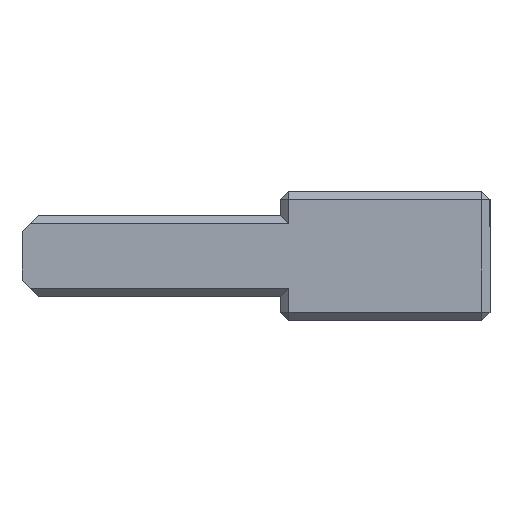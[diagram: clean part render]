
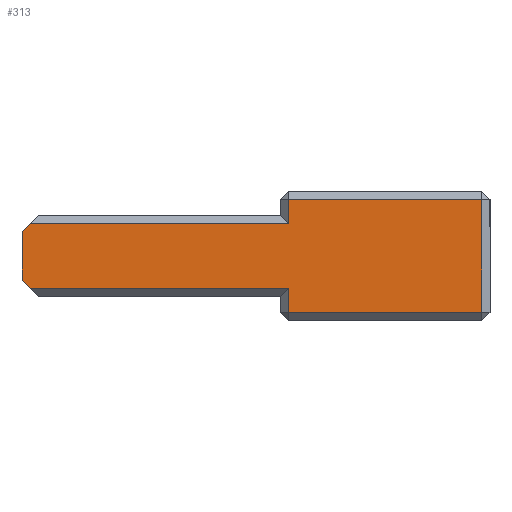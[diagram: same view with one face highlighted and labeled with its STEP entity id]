
A CAD part, top view. The second image highlights one B-rep face of the part: STEP entity #313.
In plain terms, the highlighted planar face has unit normal (0, 0, 1).
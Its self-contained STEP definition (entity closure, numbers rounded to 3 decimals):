
#86 = ORIENTED_EDGE ( 'NONE', *, *, #87, .T. ) ;
#87 = EDGE_CURVE ( 'NONE', #324, #88, #838, .T. ) ;
#88 = VERTEX_POINT ( 'NONE', #834 ) ;
#89 = ORIENTED_EDGE ( 'NONE', *, *, #90, .T. ) ;
#90 = EDGE_CURVE ( 'NONE', #88, #91, #833, .T. ) ;
#91 = VERTEX_POINT ( 'NONE', #869 ) ;
#92 = ORIENTED_EDGE ( 'NONE', *, *, #93, .T. ) ;
#93 = EDGE_CURVE ( 'NONE', #91, #94, #868, .T. ) ;
#94 = VERTEX_POINT ( 'NONE', #864 ) ;
#95 = ORIENTED_EDGE ( 'NONE', *, *, #96, .T. ) ;
#96 = EDGE_CURVE ( 'NONE', #94, #97, #863, .T. ) ;
#97 = VERTEX_POINT ( 'NONE', #859 ) ;
#98 = ORIENTED_EDGE ( 'NONE', *, *, #99, .T. ) ;
#99 = EDGE_CURVE ( 'NONE', #97, #325, #882, .T. ) ;
#218 = EDGE_CURVE ( 'NONE', #219, #220, #1846, .T. ) ;
#219 = VERTEX_POINT ( 'NONE', #1920 ) ;
#220 = VERTEX_POINT ( 'NONE', #1919 ) ;
#313 = ADVANCED_FACE ( 'NONE', ( #1955 ), #1954, .T. ) ;
#314 = EDGE_LOOP ( 'NONE', ( #315, #319, #321, #322, #86, #89, #92, #95, #98, #326 ) ) ;
#315 = ORIENTED_EDGE ( 'NONE', *, *, #316, .T. ) ;
#316 = EDGE_CURVE ( 'NONE', #317, #318, #1949, .T. ) ;
#317 = VERTEX_POINT ( 'NONE', #1945 ) ;
#318 = VERTEX_POINT ( 'NONE', #1944 ) ;
#319 = ORIENTED_EDGE ( 'NONE', *, *, #320, .T. ) ;
#320 = EDGE_CURVE ( 'NONE', #318, #219, #1325, .T. ) ;
#321 = ORIENTED_EDGE ( 'NONE', *, *, #218, .T. ) ;
#322 = ORIENTED_EDGE ( 'NONE', *, *, #323, .T. ) ;
#323 = EDGE_CURVE ( 'NONE', #220, #324, #1259, .T. ) ;
#324 = VERTEX_POINT ( 'NONE', #1255 ) ;
#325 = VERTEX_POINT ( 'NONE', #1324 ) ;
#326 = ORIENTED_EDGE ( 'NONE', *, *, #327, .T. ) ;
#327 = EDGE_CURVE ( 'NONE', #325, #317, #1323, .T. ) ;
#830 = DIRECTION ( 'NONE',  ( 0., -1., 0. ) ) ;
#831 = VECTOR ( 'NONE', #830, 1000. ) ;
#832 = CARTESIAN_POINT ( 'NONE',  ( 13.5, -4., 16. ) ) ;
#833 = LINE ( 'NONE', #832, #831 ) ;
#834 = CARTESIAN_POINT ( 'NONE',  ( 13.5, -2., 16. ) ) ;
#835 = DIRECTION ( 'NONE',  ( 1., 0., 0. ) ) ;
#836 = VECTOR ( 'NONE', #835, 1000. ) ;
#837 = CARTESIAN_POINT ( 'NONE',  ( 13., -2., 16. ) ) ;
#838 = LINE ( 'NONE', #837, #836 ) ;
#859 = CARTESIAN_POINT ( 'NONE',  ( 25.5, 3.5, 16. ) ) ;
#860 = DIRECTION ( 'NONE',  ( 0., 1., 0. ) ) ;
#861 = VECTOR ( 'NONE', #860, 1000. ) ;
#862 = CARTESIAN_POINT ( 'NONE',  ( 25.5, -2.5, 16. ) ) ;
#863 = LINE ( 'NONE', #862, #861 ) ;
#864 = CARTESIAN_POINT ( 'NONE',  ( 25.5, -3.5, 16. ) ) ;
#865 = DIRECTION ( 'NONE',  ( 1., 0., 0. ) ) ;
#866 = VECTOR ( 'NONE', #865, 1000. ) ;
#867 = CARTESIAN_POINT ( 'NONE',  ( 26., -3.5, 16. ) ) ;
#868 = LINE ( 'NONE', #867, #866 ) ;
#869 = CARTESIAN_POINT ( 'NONE',  ( 13.5, -3.5, 16. ) ) ;
#879 = DIRECTION ( 'NONE',  ( -1., 0., 0. ) ) ;
#880 = VECTOR ( 'NONE', #879, 1000. ) ;
#881 = CARTESIAN_POINT ( 'NONE',  ( 13., 3.5, 16. ) ) ;
#882 = LINE ( 'NONE', #881, #880 ) ;
#1171 = DIRECTION ( 'NONE',  ( 0., -1., 0. ) ) ;
#1211 = DIRECTION ( 'NONE',  ( -0.707, -0.707, 0. ) ) ;
#1212 = VECTOR ( 'NONE', #1211, 1000. ) ;
#1222 = CARTESIAN_POINT ( 'NONE',  ( -5., -0.5, 16. ) ) ;
#1255 = CARTESIAN_POINT ( 'NONE',  ( -2.5, -2., 16. ) ) ;
#1256 = DIRECTION ( 'NONE',  ( 0.707, -0.707, 0. ) ) ;
#1257 = VECTOR ( 'NONE', #1256, 1000. ) ;
#1258 = CARTESIAN_POINT ( 'NONE',  ( -2.5, -2., 16. ) ) ;
#1259 = LINE ( 'NONE', #1258, #1257 ) ;
#1321 = VECTOR ( 'NONE', #1171, 1000. ) ;
#1322 = CARTESIAN_POINT ( 'NONE',  ( 13.5, 2.5, 16. ) ) ;
#1323 = LINE ( 'NONE', #1322, #1321 ) ;
#1324 = CARTESIAN_POINT ( 'NONE',  ( 13.5, 3.5, 16. ) ) ;
#1325 = LINE ( 'NONE', #1222, #1212 ) ;
#1846 = LINE ( 'NONE', #1858, #1857 ) ;
#1857 = VECTOR ( 'NONE', #1921, 1000. ) ;
#1858 = CARTESIAN_POINT ( 'NONE',  ( -3., 2.5, 16. ) ) ;
#1919 = CARTESIAN_POINT ( 'NONE',  ( -3., -1.5, 16. ) ) ;
#1920 = CARTESIAN_POINT ( 'NONE',  ( -3., 1.5, 16. ) ) ;
#1921 = DIRECTION ( 'NONE',  ( 0., -1., 0. ) ) ;
#1944 = CARTESIAN_POINT ( 'NONE',  ( -2.5, 2., 16. ) ) ;
#1945 = CARTESIAN_POINT ( 'NONE',  ( 13.5, 2., 16. ) ) ;
#1946 = DIRECTION ( 'NONE',  ( -1., 0., 0. ) ) ;
#1947 = VECTOR ( 'NONE', #1946, 1000. ) ;
#1948 = CARTESIAN_POINT ( 'NONE',  ( -3., 2., 16. ) ) ;
#1949 = LINE ( 'NONE', #1948, #1947 ) ;
#1950 = DIRECTION ( 'NONE',  ( 1., 0., 0. ) ) ;
#1951 = DIRECTION ( 'NONE',  ( 0., 0., 1. ) ) ;
#1952 = CARTESIAN_POINT ( 'NONE',  ( -3., -2.5, 16. ) ) ;
#1953 = AXIS2_PLACEMENT_3D ( 'NONE', #1952, #1951, #1950 ) ;
#1954 = PLANE ( 'NONE',  #1953 ) ;
#1955 = FACE_OUTER_BOUND ( 'NONE', #314, .T. ) ;
